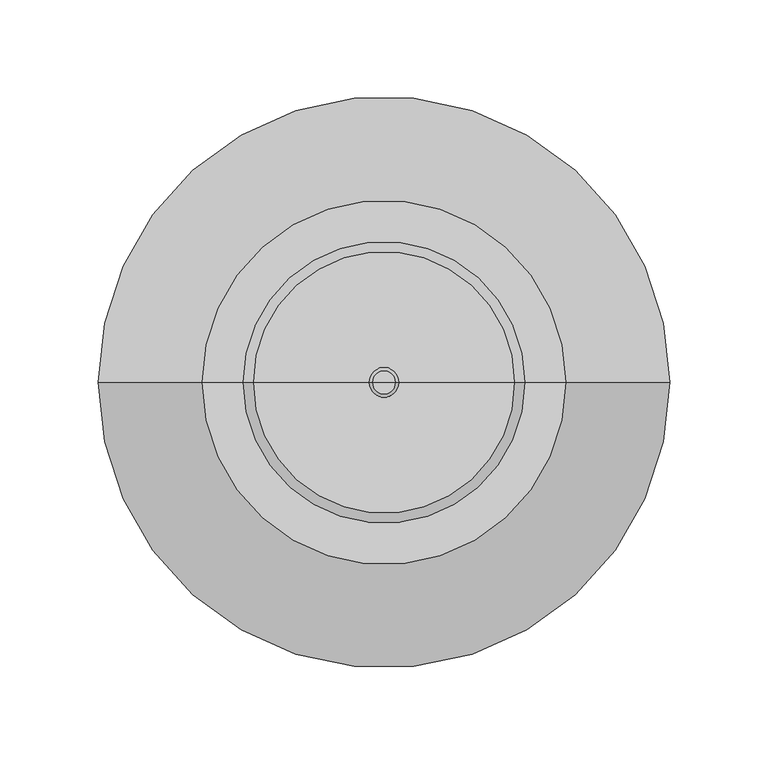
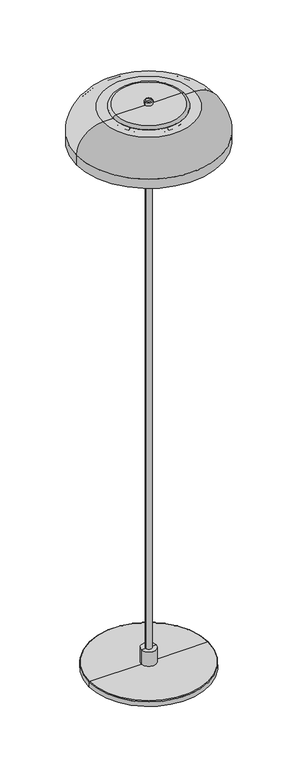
"""IFC4 building model written with IfcOpenShell, lengths in millimetres: light fixture geometry, Nuura - Blossi - Floor : Nuura - Blossi - Floor."""

from ifc_helpers import new_model, si_unit, point, frame, frame_2d, origin, origin_with_axes, place, context, project, spatial, polyline, circle_curve, ellipse_curve, trimmed, segment, composite_curve, outline, extrude, source, transform, mapped, element, save
from ifc_brep_helpers import plane_surface, cylinder_surface, revolved_surface, advanced_brep


def light_fixture_9dd19aa5(model_context):
    return source(origin(), model_context, "Body", "SolidModel", [
        advanced_brep(
        [(-93.0, 0.0, 1185.7), (93.0, 0.0, 1185.7), (0.0, 0.0, 1185.7), (-141.0, 0.0, 1137.7), (141.0, 0.0, 1137.7), (-141.0, 0.0, 1117.7), (141.0, 0.0, 1117.7), (-145.0, 0.0, 1117.7), (145.0, 0.0, 1117.7), (-145.0, 0.0, 1137.2), (145.0, 0.0, 1137.2), (-92.5, 0.0, 1189.7), (92.5, 0.0, 1189.7), (0.0, 0.0, 1189.7)],
        [
            (0, 1, circle_curve(frame((0.0, 0.0, 1185.7), z_axis=(0.0, 0.0, -1.0), x_axis=(1.0, 0.0, 0.0)), 93.0)),
            (1, 2),
            (2, 0),
            (1, 0, circle_curve(frame((0.0, 0.0, 1185.7), z_axis=(0.0, 0.0, -1.0), x_axis=(1.0, 0.0, 0.0)), 93.0)),
            (3, 4, circle_curve(frame((0.0, 0.0, 1137.7), z_axis=(0.0, 0.0, -1.0), x_axis=(1.0, 0.0, 0.0)), 141.0)),
            (4, 1, circle_curve(frame((93.0, 0.0, 1137.7), z_axis=(0.0, -1.0, 0.0), x_axis=(1.0, 0.0, 0.0)), 48.0)),
            (0, 3, circle_curve(frame((-93.0, 0.0, 1137.7), z_axis=(0.0, -1.0, 0.0), x_axis=(-1.0, 0.0, 0.0)), 48.0)),
            (4, 3, circle_curve(frame((0.0, 0.0, 1137.7), z_axis=(0.0, 0.0, -1.0), x_axis=(1.0, 0.0, 0.0)), 141.0)),
            (5, 6, circle_curve(frame((0.0, 0.0, 1117.7), z_axis=(0.0, 0.0, -1.0), x_axis=(1.0, 0.0, 0.0)), 141.0)),
            (6, 4),
            (3, 5),
            (6, 5, circle_curve(frame((0.0, 0.0, 1117.7), z_axis=(0.0, 0.0, -1.0), x_axis=(1.0, 0.0, 0.0)), 141.0)),
            (7, 8, circle_curve(frame((0.0, 0.0, 1117.7), z_axis=(0.0, 0.0, -1.0), x_axis=(1.0, 0.0, 0.0)), 145.0)),
            (8, 6),
            (5, 7),
            (8, 7, circle_curve(frame((0.0, 0.0, 1117.7), z_axis=(0.0, 0.0, -1.0), x_axis=(1.0, 0.0, 0.0)), 145.0)),
            (9, 10, circle_curve(frame((0.0, 0.0, 1137.2), z_axis=(0.0, 0.0, -1.0), x_axis=(1.0, 0.0, 0.0)), 145.0)),
            (10, 8),
            (7, 9),
            (10, 9, circle_curve(frame((0.0, 0.0, 1137.2), z_axis=(0.0, 0.0, -1.0), x_axis=(1.0, 0.0, 0.0)), 145.0)),
            (11, 12, circle_curve(frame((0.0, 0.0, 1189.7), z_axis=(0.0, 0.0, -1.0), x_axis=(1.0, 0.0, 0.0)), 92.5)),
            (12, 10, circle_curve(frame((92.5, 0.0, 1137.2), z_axis=(0.0, 1.0, 0.0), x_axis=(1.0, 0.0, 0.0)), 52.5)),
            (9, 11, circle_curve(frame((-92.5, 0.0, 1137.2), z_axis=(0.0, 1.0, 0.0), x_axis=(-1.0, 0.0, 0.0)), 52.5)),
            (12, 11, circle_curve(frame((0.0, 0.0, 1189.7), z_axis=(0.0, 0.0, -1.0), x_axis=(1.0, 0.0, 0.0)), 92.5)),
            (13, 12),
            (11, 13),
        ],
        [
            plane_surface(frame((0.0, 0.0, 1185.7), z_axis=(0.0, 0.0, -1.0), x_axis=(1.0, 0.0, 0.0))),
            revolved_surface(trimmed(ellipse_curve(frame((93.0, 0.0, 1137.7), z_axis=(0.0, 1.0, 0.0), x_axis=(1.0, 0.0, 0.0)), 48.0, 48.0), [point((93.0, 0.0, 1185.7))], [point((141.0, 0.0, 1137.7))], True, "CARTESIAN"), (0.0, 0.0, 1236.0834276), (0.0, 0.0, 1.0)),
            revolved_surface(polyline([(141.0, 0.0, 1137.7), (141.0, 0.0, 1117.7)]), (0.0, 0.0, 1236.0834276), (0.0, 0.0, 1.0)),
            plane_surface(frame((0.0, 0.0, 1117.7), z_axis=(0.0, 0.0, -1.0), x_axis=(1.0, 0.0, 0.0))),
            cylinder_surface(frame((0.0, 0.0, 1236.0834276), z_axis=(0.0, 0.0, 1.0), x_axis=(1.0, 0.0, 0.0)), 145.0),
            revolved_surface(trimmed(ellipse_curve(frame((92.5, 0.0, 1137.2), z_axis=(0.0, -1.0, 0.0), x_axis=(1.0, 0.0, 0.0)), 52.5, 52.5), [point((145.0, 0.0, 1137.2))], [point((92.5, 0.0, 1189.7))], True, "CARTESIAN"), (0.0, 0.0, 1236.0834276), (0.0, 0.0, 1.0)),
            plane_surface(frame((0.0, 0.0, 1189.7), z_axis=(0.0, 0.0, 1.0), x_axis=(1.0, 0.0, 0.0))),
        ],
        [
            (0, [[1, 2, 3]]),
            (0, [[4, -3, -2]]),
            (1, [[5, 6, -1, 7]]),
            (1, [[8, -7, -4, -6]]),
            (2, [[9, 10, -5, 11]]),
            (2, [[12, -11, -8, -10]]),
            (3, [[13, 14, -9, 15]]),
            (3, [[16, -15, -12, -14]]),
            (4, [[17, 18, -13, 19]]),
            (4, [[20, -19, -16, -18]]),
            (5, [[21, 22, -17, 23]]),
            (5, [[24, -23, -20, -22]]),
            (6, [[25, -21, 26]]),
            (6, [[-26, -24, -25]]),
        ],
    ),
        advanced_brep(
        [(-5.85, 0.0, 1180.0), (5.85, 0.0, 1180.0), (5.85, 0.0, 1140.0), (-5.85, 0.0, 1140.0), (0.0, 0.0, 1180.0), (0.0, 0.0, 1140.0)],
        [
            (0, 1, circle_curve(frame((0.0, 0.0, 1180.0), z_axis=(0.0, 0.0, -1.0), x_axis=(1.0, 0.0, 0.0)), 5.85)),
            (1, 2),
            (2, 3, circle_curve(frame((0.0, 0.0, 1140.0), z_axis=(0.0, 0.0, 1.0), x_axis=(1.0, 0.0, 0.0)), 5.85)),
            (3, 0),
            (1, 0, circle_curve(frame((0.0, 0.0, 1180.0), z_axis=(0.0, 0.0, -1.0), x_axis=(1.0, 0.0, 0.0)), 5.85)),
            (3, 2, circle_curve(frame((0.0, 0.0, 1140.0), z_axis=(0.0, 0.0, 1.0), x_axis=(1.0, 0.0, 0.0)), 5.85)),
            (4, 1),
            (0, 4),
            (2, 5),
            (5, 3),
        ],
        [
            cylinder_surface(frame((0.0, 0.0, 295.8767365), z_axis=(0.0, 0.0, 1.0), x_axis=(1.0, 0.0, 0.0)), 5.85),
            plane_surface(frame((0.0, 0.0, 1180.0), z_axis=(0.0, 0.0, 1.0), x_axis=(1.0, 0.0, 0.0))),
            plane_surface(frame((0.0, 0.0, 1140.0), z_axis=(0.0, 0.0, -1.0), x_axis=(1.0, 0.0, 0.0))),
        ],
        [
            (0, [[1, 2, 3, 4]]),
            (0, [[5, -4, 6, -2]]),
            (1, [[7, -1, 8]]),
            (1, [[-8, -5, -7]]),
            (2, [[-3, 9, 10]]),
            (2, [[-6, -10, -9]]),
        ],
    ),
        extrude(outline(composite_curve([segment(trimmed(circle_curve(frame_2d((0.0, 90.025097)), 15.0), [point((0.0, 105.025097))], [point((0.0, 75.025097))], False, "CARTESIAN"), True, "CONTINUOUS"), segment(trimmed(circle_curve(frame_2d((0.0, 90.025097)), 15.0), [point((0.0, 75.025097))], [point((0.0, 105.025097))], False, "CARTESIAN"), True, "CONTINUOUS")], self_intersect=False)), origin_with_axes(), (0.0, 0.0, 1.0), 2.0),
        extrude(outline(composite_curve([segment(trimmed(circle_curve(frame_2d((90.025097, 0.0)), 15.0), [point((105.025097, 0.0))], [point((75.025097, 0.0))], False, "CARTESIAN"), True, "CONTINUOUS"), segment(trimmed(circle_curve(frame_2d((90.025097, 0.0)), 15.0), [point((75.025097, 0.0))], [point((105.025097, 0.0))], False, "CARTESIAN"), True, "CONTINUOUS")], self_intersect=False)), origin_with_axes(), (0.0, 0.0, 1.0), 2.0),
        extrude(outline(composite_curve([segment(trimmed(circle_curve(frame_2d((0.0, -90.025097)), 15.0), [point((0.0, -105.025097))], [point((0.0, -75.025097))], False, "CARTESIAN"), True, "CONTINUOUS"), segment(trimmed(circle_curve(frame_2d((0.0, -90.025097)), 15.0), [point((0.0, -75.025097))], [point((0.0, -105.025097))], False, "CARTESIAN"), True, "CONTINUOUS")], self_intersect=False)), origin_with_axes(), (0.0, 0.0, 1.0), 2.0),
        extrude(outline(composite_curve([segment(trimmed(circle_curve(frame_2d((-90.025097, 0.0)), 15.0), [point((-105.025097, 0.0))], [point((-75.025097, 0.0))], False, "CARTESIAN"), True, "CONTINUOUS"), segment(trimmed(circle_curve(frame_2d((-90.025097, 0.0)), 15.0), [point((-75.025097, 0.0))], [point((-105.025097, 0.0))], False, "CARTESIAN"), True, "CONTINUOUS")], self_intersect=False)), origin_with_axes(), (0.0, 0.0, 1.0), 2.0),
        advanced_brep(
        [(-120.0, 0.0, 11.5077467), (120.0, 0.0, 11.5077467), (120.0, 0.0, 2.0), (-120.0, 0.0, 2.0), (-15.0, 0.0, 13.0), (15.0, 0.0, 13.0), (118.5077467, 0.0, 13.0), (-118.5077467, 0.0, 13.0), (0.0, 0.0, 2.0), (-15.0, 0.0, 43.0), (15.0, 0.0, 43.0), (-6.3, 0.0, 43.0), (6.3, 0.0, 43.0), (-6.3, 0.0, 1131.0), (6.3, 0.0, 1131.0), (-32.0, 0.0, 1131.0), (32.0, 0.0, 1131.0), (-35.0, 0.0, 1134.0), (35.0, 0.0, 1134.0), (-35.0, 0.0, 1136.0), (35.0, 0.0, 1136.0), (-32.0, 0.0, 1139.0), (32.0, 0.0, 1139.0), (0.0, 0.0, 1139.0)],
        [
            (0, 1, circle_curve(frame((0.0, 0.0, 11.5077467), z_axis=(0.0, 0.0, -1.0), x_axis=(1.0, 0.0, 0.0)), 120.0)),
            (1, 2),
            (2, 3, circle_curve(frame((0.0, 0.0, 2.0), z_axis=(0.0, 0.0, 1.0), x_axis=(1.0, 0.0, 0.0)), 120.0)),
            (3, 0),
            (1, 0, circle_curve(frame((0.0, 0.0, 11.5077467), z_axis=(0.0, 0.0, -1.0), x_axis=(1.0, 0.0, 0.0)), 120.0)),
            (3, 2, circle_curve(frame((0.0, 0.0, 2.0), z_axis=(0.0, 0.0, 1.0), x_axis=(1.0, 0.0, 0.0)), 120.0)),
            (4, 5, circle_curve(frame((0.0, 0.0, 13.0), z_axis=(0.0, 0.0, -1.0), x_axis=(1.0, 0.0, 0.0)), 15.0)),
            (5, 6),
            (6, 7, circle_curve(frame((0.0, 0.0, 13.0), z_axis=(0.0, 0.0, 1.0), x_axis=(1.0, 0.0, 0.0)), 118.5077467)),
            (7, 4),
            (5, 4, circle_curve(frame((0.0, 0.0, 13.0), z_axis=(0.0, 0.0, -1.0), x_axis=(1.0, 0.0, 0.0)), 15.0)),
            (7, 6, circle_curve(frame((0.0, 0.0, 13.0), z_axis=(0.0, 0.0, 1.0), x_axis=(1.0, 0.0, 0.0)), 118.5077467)),
            (2, 8),
            (8, 3),
            (6, 1, circle_curve(frame((118.5077467, 0.0, 11.5077467), z_axis=(0.0, 1.0, 0.0), x_axis=(1.0, 0.0, 0.0)), 1.4922533)),
            (0, 7, circle_curve(frame((-118.5077467, 0.0, 11.5077467), z_axis=(0.0, 1.0, 0.0), x_axis=(-1.0, 0.0, 0.0)), 1.4922533)),
            (9, 10, circle_curve(frame((0.0, 0.0, 43.0), z_axis=(0.0, 0.0, -1.0), x_axis=(1.0, 0.0, 0.0)), 15.0)),
            (10, 5),
            (4, 9),
            (10, 9, circle_curve(frame((0.0, 0.0, 43.0), z_axis=(0.0, 0.0, -1.0), x_axis=(1.0, 0.0, 0.0)), 15.0)),
            (11, 12, circle_curve(frame((0.0, 0.0, 43.0), z_axis=(0.0, 0.0, -1.0), x_axis=(1.0, 0.0, 0.0)), 6.3)),
            (12, 10),
            (9, 11),
            (12, 11, circle_curve(frame((0.0, 0.0, 43.0), z_axis=(0.0, 0.0, -1.0), x_axis=(1.0, 0.0, 0.0)), 6.3)),
            (13, 14, circle_curve(frame((0.0, 0.0, 1131.0), z_axis=(0.0, 0.0, -1.0), x_axis=(1.0, 0.0, 0.0)), 6.3)),
            (14, 12),
            (11, 13),
            (14, 13, circle_curve(frame((0.0, 0.0, 1131.0), z_axis=(0.0, 0.0, -1.0), x_axis=(1.0, 0.0, 0.0)), 6.3)),
            (15, 16, circle_curve(frame((0.0, 0.0, 1131.0), z_axis=(0.0, 0.0, -1.0), x_axis=(1.0, 0.0, 0.0)), 32.0)),
            (16, 14),
            (13, 15),
            (16, 15, circle_curve(frame((0.0, 0.0, 1131.0), z_axis=(0.0, 0.0, -1.0), x_axis=(1.0, 0.0, 0.0)), 32.0)),
            (17, 18, circle_curve(frame((0.0, 0.0, 1134.0), z_axis=(0.0, 0.0, -1.0), x_axis=(1.0, 0.0, 0.0)), 35.0)),
            (18, 16, circle_curve(frame((32.0, 0.0, 1134.0), z_axis=(0.0, 1.0, 0.0), x_axis=(1.0, 0.0, 0.0)), 3.0)),
            (15, 17, circle_curve(frame((-32.0, 0.0, 1134.0), z_axis=(0.0, 1.0, 0.0), x_axis=(-1.0, 0.0, 0.0)), 3.0)),
            (18, 17, circle_curve(frame((0.0, 0.0, 1134.0), z_axis=(0.0, 0.0, -1.0), x_axis=(1.0, 0.0, 0.0)), 35.0)),
            (19, 20, circle_curve(frame((0.0, 0.0, 1136.0), z_axis=(0.0, 0.0, -1.0), x_axis=(1.0, 0.0, 0.0)), 35.0)),
            (20, 18),
            (17, 19),
            (20, 19, circle_curve(frame((0.0, 0.0, 1136.0), z_axis=(0.0, 0.0, -1.0), x_axis=(1.0, 0.0, 0.0)), 35.0)),
            (21, 22, circle_curve(frame((0.0, 0.0, 1139.0), z_axis=(0.0, 0.0, -1.0), x_axis=(1.0, 0.0, 0.0)), 32.0)),
            (22, 20, circle_curve(frame((32.0, 0.0, 1136.0), z_axis=(0.0, 1.0, 0.0), x_axis=(1.0, 0.0, 0.0)), 3.0)),
            (19, 21, circle_curve(frame((-32.0, 0.0, 1136.0), z_axis=(0.0, 1.0, 0.0), x_axis=(-1.0, 0.0, 0.0)), 3.0)),
            (22, 21, circle_curve(frame((0.0, 0.0, 1139.0), z_axis=(0.0, 0.0, -1.0), x_axis=(1.0, 0.0, 0.0)), 32.0)),
            (23, 22),
            (21, 23),
        ],
        [
            cylinder_surface(frame((0.0, 0.0, -50.0), z_axis=(0.0, 0.0, 1.0), x_axis=(1.0, 0.0, 0.0)), 120.0),
            plane_surface(frame((0.0, 0.0, 13.0), z_axis=(0.0, 0.0, 1.0), x_axis=(1.0, 0.0, 0.0))),
            plane_surface(frame((0.0, 0.0, 2.0), z_axis=(0.0, 0.0, -1.0), x_axis=(1.0, 0.0, 0.0))),
            revolved_surface(trimmed(ellipse_curve(frame((118.5077467, 0.0, 11.5077467), z_axis=(0.0, -1.0, 0.0), x_axis=(1.0, 0.0, 0.0)), 1.4922533, 1.4922533), [point((120.0, 0.0, 11.5077467))], [point((118.5077467, 0.0, 13.0))], True, "CARTESIAN"), (0.0, 0.0, -50.0), (0.0, 0.0, 1.0)),
            cylinder_surface(frame((0.0, 0.0, -50.0), z_axis=(0.0, 0.0, 1.0), x_axis=(1.0, 0.0, 0.0)), 15.0),
            plane_surface(frame((0.0, 0.0, 43.0), z_axis=(0.0, 0.0, 1.0), x_axis=(1.0, 0.0, 0.0))),
            cylinder_surface(frame((0.0, 0.0, -50.0), z_axis=(0.0, 0.0, 1.0), x_axis=(1.0, 0.0, 0.0)), 6.3),
            plane_surface(frame((0.0, 0.0, 1131.0), z_axis=(0.0, 0.0, -1.0), x_axis=(1.0, 0.0, 0.0))),
            revolved_surface(trimmed(ellipse_curve(frame((32.0, 0.0, 1134.0), z_axis=(0.0, -1.0, 0.0), x_axis=(1.0, 0.0, 0.0)), 3.0, 3.0), [point((32.0, 0.0, 1131.0))], [point((35.0, 0.0, 1134.0))], True, "CARTESIAN"), (0.0, 0.0, -50.0), (0.0, 0.0, 1.0)),
            cylinder_surface(frame((0.0, 0.0, -50.0), z_axis=(0.0, 0.0, 1.0), x_axis=(1.0, 0.0, 0.0)), 35.0),
            revolved_surface(trimmed(ellipse_curve(frame((32.0, 0.0, 1136.0), z_axis=(0.0, -1.0, 0.0), x_axis=(1.0, 0.0, 0.0)), 3.0, 3.0), [point((35.0, 0.0, 1136.0))], [point((32.0, 0.0, 1139.0))], True, "CARTESIAN"), (0.0, 0.0, -50.0), (0.0, 0.0, 1.0)),
            plane_surface(frame((0.0, 0.0, 1139.0), z_axis=(0.0, 0.0, 1.0), x_axis=(1.0, 0.0, 0.0))),
        ],
        [
            (0, [[1, 2, 3, 4]]),
            (0, [[5, -4, 6, -2]]),
            (1, [[7, 8, 9, 10]]),
            (1, [[11, -10, 12, -8]]),
            (2, [[-3, 13, 14]]),
            (2, [[-6, -14, -13]]),
            (3, [[-9, 15, -1, 16]]),
            (3, [[-12, -16, -5, -15]]),
            (4, [[17, 18, -7, 19]]),
            (4, [[20, -19, -11, -18]]),
            (5, [[21, 22, -17, 23]]),
            (5, [[24, -23, -20, -22]]),
            (6, [[25, 26, -21, 27]]),
            (6, [[28, -27, -24, -26]]),
            (7, [[29, 30, -25, 31]]),
            (7, [[32, -31, -28, -30]]),
            (8, [[33, 34, -29, 35]]),
            (8, [[36, -35, -32, -34]]),
            (9, [[37, 38, -33, 39]]),
            (9, [[40, -39, -36, -38]]),
            (10, [[41, 42, -37, 43]]),
            (10, [[44, -43, -40, -42]]),
            (11, [[45, -41, 46]]),
            (11, [[-46, -44, -45]]),
        ],
    ),
        advanced_brep(
        [(-71.5035387, 0.0, 1184.7), (71.5035387, 0.0, 1184.7), (66.5035387, 0.0, 1179.7), (-66.5035387, 0.0, 1179.7), (0.0, 0.0, 1179.7), (-71.5035387, 0.0, 1185.7), (71.5035387, 0.0, 1185.7), (0.0, 0.0, 1185.7)],
        [
            (0, 1, circle_curve(frame((0.0, 0.0, 1184.7), z_axis=(0.0, 0.0, -1.0), x_axis=(1.0, 0.0, 0.0)), 71.5035387)),
            (1, 2, circle_curve(frame((66.5035387, 0.0, 1184.7), z_axis=(0.0, 1.0, 0.0), x_axis=(1.0, 0.0, 0.0)), 5.0)),
            (2, 3, circle_curve(frame((0.0, 0.0, 1179.7), z_axis=(0.0, 0.0, 1.0), x_axis=(1.0, 0.0, 0.0)), 66.5035387)),
            (3, 0, circle_curve(frame((-66.5035387, 0.0, 1184.7), z_axis=(0.0, 1.0, 0.0), x_axis=(-1.0, 0.0, 0.0)), 5.0)),
            (1, 0, circle_curve(frame((0.0, 0.0, 1184.7), z_axis=(0.0, 0.0, -1.0), x_axis=(1.0, 0.0, 0.0)), 71.5035387)),
            (3, 2, circle_curve(frame((0.0, 0.0, 1179.7), z_axis=(0.0, 0.0, 1.0), x_axis=(1.0, 0.0, 0.0)), 66.5035387)),
            (2, 4),
            (4, 3),
            (5, 6, circle_curve(frame((0.0, 0.0, 1185.7), z_axis=(0.0, 0.0, -1.0), x_axis=(1.0, 0.0, 0.0)), 71.5035387)),
            (6, 1),
            (0, 5),
            (6, 5, circle_curve(frame((0.0, 0.0, 1185.7), z_axis=(0.0, 0.0, -1.0), x_axis=(1.0, 0.0, 0.0)), 71.5035387)),
            (7, 6),
            (5, 7),
        ],
        [
            revolved_surface(trimmed(ellipse_curve(frame((66.5035387, 0.0, 1184.7), z_axis=(0.0, -1.0, 0.0), x_axis=(1.0, 0.0, 0.0)), 5.0, 5.0), [point((66.5035387, 0.0, 1179.7))], [point((71.5035387, 0.0, 1184.7))], True, "CARTESIAN"), (0.0, 0.0, -50.0), (0.0, 0.0, 1.0)),
            plane_surface(frame((0.0, 0.0, 1179.7), z_axis=(0.0, 0.0, -1.0), x_axis=(1.0, 0.0, 0.0))),
            cylinder_surface(frame((0.0, 0.0, -50.0), z_axis=(0.0, 0.0, 1.0), x_axis=(1.0, 0.0, 0.0)), 71.5035387),
            plane_surface(frame((0.0, 0.0, 1185.7), z_axis=(0.0, 0.0, 1.0), x_axis=(1.0, 0.0, 0.0))),
        ],
        [
            (0, [[1, 2, 3, 4]]),
            (0, [[5, -4, 6, -2]]),
            (1, [[-3, 7, 8]]),
            (1, [[-6, -8, -7]]),
            (2, [[9, 10, -1, 11]]),
            (2, [[12, -11, -5, -10]]),
            (3, [[13, -9, 14]]),
            (3, [[-14, -12, -13]]),
        ],
    ),
        advanced_brep(
        [(-66.5035387, 0.0, 1195.7), (66.5035387, 0.0, 1195.7), (71.5035387, 0.0, 1190.7), (-71.5035387, 0.0, 1190.7), (-7.5, 0.0, 1195.7), (7.5, 0.0, 1195.7), (-7.5, 0.0, 1202.1675236), (7.5, 0.0, 1202.1675236), (-5.9675236, 0.0, 1203.7), (5.9675236, 0.0, 1203.7), (0.0, 0.0, 1203.7), (-71.5035387, 0.0, 1189.7), (71.5035387, 0.0, 1189.7), (0.0, 0.0, 1189.7)],
        [
            (0, 1, circle_curve(frame((0.0, 0.0, 1195.7), z_axis=(0.0, 0.0, -1.0), x_axis=(1.0, 0.0, 0.0)), 66.5035387)),
            (1, 2, circle_curve(frame((66.5035387, 0.0, 1190.7), z_axis=(0.0, 1.0, 0.0), x_axis=(1.0, 0.0, 0.0)), 5.0)),
            (2, 3, circle_curve(frame((0.0, 0.0, 1190.7), z_axis=(0.0, 0.0, 1.0), x_axis=(1.0, 0.0, 0.0)), 71.5035387)),
            (3, 0, circle_curve(frame((-66.5035387, 0.0, 1190.7), z_axis=(0.0, 1.0, 0.0), x_axis=(-1.0, 0.0, 0.0)), 5.0)),
            (1, 0, circle_curve(frame((0.0, 0.0, 1195.7), z_axis=(0.0, 0.0, -1.0), x_axis=(1.0, 0.0, 0.0)), 66.5035387)),
            (3, 2, circle_curve(frame((0.0, 0.0, 1190.7), z_axis=(0.0, 0.0, 1.0), x_axis=(1.0, 0.0, 0.0)), 71.5035387)),
            (4, 5, circle_curve(frame((0.0, 0.0, 1195.7), z_axis=(0.0, 0.0, -1.0), x_axis=(1.0, 0.0, 0.0)), 7.5)),
            (5, 1),
            (0, 4),
            (5, 4, circle_curve(frame((0.0, 0.0, 1195.7), z_axis=(0.0, 0.0, -1.0), x_axis=(1.0, 0.0, 0.0)), 7.5)),
            (6, 7, circle_curve(frame((0.0, 0.0, 1202.1675236), z_axis=(0.0, 0.0, -1.0), x_axis=(1.0, 0.0, 0.0)), 7.5)),
            (7, 5),
            (4, 6),
            (7, 6, circle_curve(frame((0.0, 0.0, 1202.1675236), z_axis=(0.0, 0.0, -1.0), x_axis=(1.0, 0.0, 0.0)), 7.5)),
            (8, 9, circle_curve(frame((0.0, 0.0, 1203.7), z_axis=(0.0, 0.0, -1.0), x_axis=(1.0, 0.0, 0.0)), 5.9675236)),
            (9, 7, circle_curve(frame((5.9675236, 0.0, 1202.1675236), z_axis=(0.0, 1.0, 0.0), x_axis=(1.0, 0.0, 0.0)), 1.5324764)),
            (6, 8, circle_curve(frame((-5.9675236, 0.0, 1202.1675236), z_axis=(0.0, 1.0, 0.0), x_axis=(-1.0, 0.0, 0.0)), 1.5324764)),
            (9, 8, circle_curve(frame((0.0, 0.0, 1203.7), z_axis=(0.0, 0.0, -1.0), x_axis=(1.0, 0.0, 0.0)), 5.9675236)),
            (10, 9),
            (8, 10),
            (11, 12, circle_curve(frame((0.0, 0.0, 1189.7), z_axis=(0.0, 0.0, -1.0), x_axis=(1.0, 0.0, 0.0)), 71.5035387)),
            (12, 13),
            (13, 11),
            (12, 11, circle_curve(frame((0.0, 0.0, 1189.7), z_axis=(0.0, 0.0, -1.0), x_axis=(1.0, 0.0, 0.0)), 71.5035387)),
            (2, 12),
            (11, 3),
        ],
        [
            revolved_surface(trimmed(ellipse_curve(frame((66.5035387, 0.0, 1190.7), z_axis=(0.0, -1.0, 0.0), x_axis=(1.0, 0.0, 0.0)), 5.0, 5.0), [point((71.5035387, 0.0, 1190.7))], [point((66.5035387, 0.0, 1195.7))], True, "CARTESIAN"), (0.0, 0.0, -50.0), (0.0, 0.0, 1.0)),
            plane_surface(frame((0.0, 0.0, 1195.7), z_axis=(0.0, 0.0, 1.0), x_axis=(1.0, 0.0, 0.0))),
            cylinder_surface(frame((0.0, 0.0, -50.0), z_axis=(0.0, 0.0, 1.0), x_axis=(1.0, 0.0, 0.0)), 7.5),
            revolved_surface(trimmed(ellipse_curve(frame((5.9675236, 0.0, 1202.1675236), z_axis=(0.0, -1.0, 0.0), x_axis=(1.0, 0.0, 0.0)), 1.5324764, 1.5324764), [point((7.5, 0.0, 1202.1675236))], [point((5.9675236, 0.0, 1203.7))], True, "CARTESIAN"), (0.0, 0.0, -50.0), (0.0, 0.0, 1.0)),
            plane_surface(frame((0.0, 0.0, 1203.7), z_axis=(0.0, 0.0, 1.0), x_axis=(1.0, 0.0, 0.0))),
            plane_surface(frame((0.0, 0.0, 1189.7), z_axis=(0.0, 0.0, -1.0), x_axis=(1.0, 0.0, 0.0))),
            cylinder_surface(frame((0.0, 0.0, -50.0), z_axis=(0.0, 0.0, 1.0), x_axis=(1.0, 0.0, 0.0)), 71.5035387),
        ],
        [
            (0, [[1, 2, 3, 4]]),
            (0, [[5, -4, 6, -2]]),
            (1, [[7, 8, -1, 9]]),
            (1, [[10, -9, -5, -8]]),
            (2, [[11, 12, -7, 13]]),
            (2, [[14, -13, -10, -12]]),
            (3, [[15, 16, -11, 17]]),
            (3, [[18, -17, -14, -16]]),
            (4, [[19, -15, 20]]),
            (4, [[-20, -18, -19]]),
            (5, [[21, 22, 23]]),
            (5, [[24, -23, -22]]),
            (6, [[-3, 25, -21, 26]]),
            (6, [[-6, -26, -24, -25]]),
        ],
    ),
    ])


if __name__ == "__main__":
    model = new_model("IFC4")
    model_context = context("Model", 3, world=origin())
    ifc_project = project(units=[si_unit("LENGTHUNIT", "METRE", prefix="MILLI")], contexts=[model_context])
    site = spatial("IfcSite", under=ifc_project)
    building = spatial("IfcBuilding", under=site)
    placement = place(None, origin())
    light_fixture_shape = light_fixture_9dd19aa5(model_context)
    element("IfcLightFixture", 1, ObjectType="Nuura - Blossi - Floor : Nuura - Blossi - Floor", at=placement, inside=building, context=model_context, shape_type="MappedRepresentation", body=[
        mapped(light_fixture_shape, transform((0.0, 0.0, 0.0), x_axis=(1.0, 0.0, 0.0), y_axis=(0.0, 1.0, 0.0), z_axis=(0.0, 0.0, 1.0))),
    ])
    save(model, "model.ifc")
